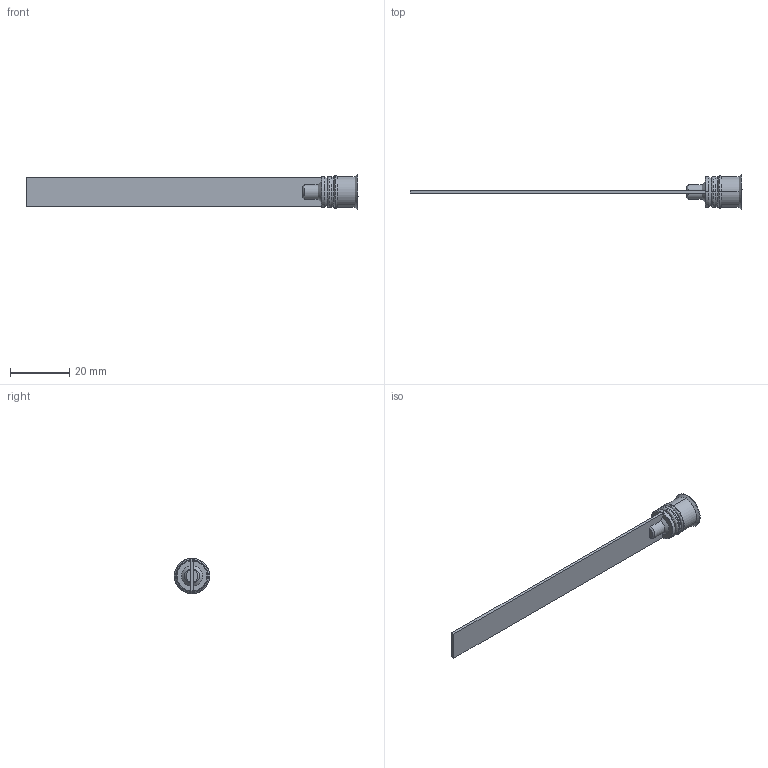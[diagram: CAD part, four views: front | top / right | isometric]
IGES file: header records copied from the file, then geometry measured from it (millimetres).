
Start section: START RECORD GO HERE.
Global section: file name: RL-10x100.igs; native system: DASSAULT SYSTEMES CATIA V5 R20 - www.3ds.com; preprocessor: CATIA Version 5 Release 20 ; author: Utente; organization: NB04-ASUS; date: 20210303.200252; units: millimetre
Bounding box: 112.5 x 12 x 12 mm (x, y, z)
Surface area: 3153.8 mm2 (no closed solid volume)
Topology: 0 solids, 0 shells, 65 faces, 364 edges, 364 vertices
Faces by surface type: revolution 38, plane 27
